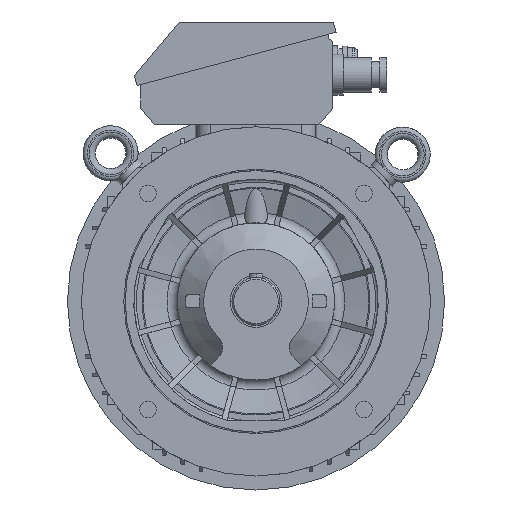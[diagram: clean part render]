
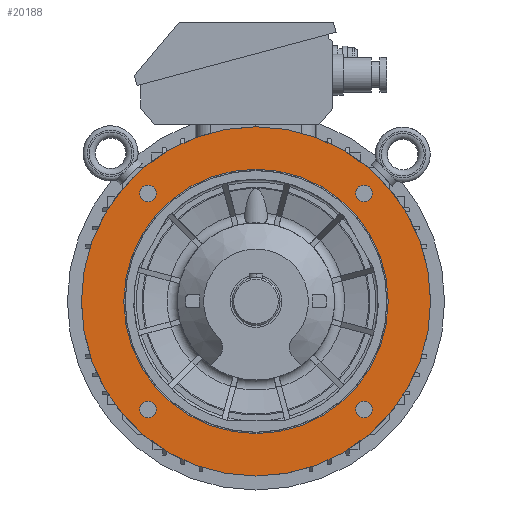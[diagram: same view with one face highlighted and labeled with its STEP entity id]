
A CAD part, front view. The second image highlights one B-rep face of the part: STEP entity #20188.
In plain terms, the highlighted planar face has unit normal (0, -1, 0).
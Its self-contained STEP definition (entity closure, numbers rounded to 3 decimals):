
#3221=PLANE('',#21217);
#4714=ORIENTED_EDGE('',*,*,#8899,.F.);
#4715=ORIENTED_EDGE('',*,*,#8900,.F.);
#4716=ORIENTED_EDGE('',*,*,#8901,.F.);
#4717=ORIENTED_EDGE('',*,*,#8902,.F.);
#4718=ORIENTED_EDGE('',*,*,#8898,.T.);
#4719=ORIENTED_EDGE('',*,*,#8903,.F.);
#8898=EDGE_CURVE('',#10941,#10941,#12165,.T.);
#8899=EDGE_CURVE('',#10942,#10942,#12166,.T.);
#8900=EDGE_CURVE('',#10943,#10943,#12167,.T.);
#8901=EDGE_CURVE('',#10944,#10944,#12168,.T.);
#8902=EDGE_CURVE('',#10945,#10945,#12169,.T.);
#8903=EDGE_CURVE('',#10946,#10946,#12170,.T.);
#10941=VERTEX_POINT('',#28460);
#10942=VERTEX_POINT('',#28463);
#10943=VERTEX_POINT('',#28465);
#10944=VERTEX_POINT('',#28467);
#10945=VERTEX_POINT('',#28469);
#10946=VERTEX_POINT('',#28471);
#12165=CIRCLE('',#21216,199.994);
#12166=CIRCLE('',#21218,9.5);
#12167=CIRCLE('',#21219,9.5);
#12168=CIRCLE('',#21220,9.5);
#12169=CIRCLE('',#21221,9.5);
#12170=CIRCLE('',#21222,151.394);
#12622=EDGE_LOOP('',(#4714));
#12623=EDGE_LOOP('',(#4715));
#12624=EDGE_LOOP('',(#4716));
#12625=EDGE_LOOP('',(#4717));
#12626=EDGE_LOOP('',(#4718));
#12627=EDGE_LOOP('',(#4719));
#13538=FACE_BOUND('',#12622,.T.);
#13539=FACE_BOUND('',#12623,.T.);
#13540=FACE_BOUND('',#12624,.T.);
#13541=FACE_BOUND('',#12625,.T.);
#13542=FACE_BOUND('',#12626,.T.);
#13543=FACE_BOUND('',#12627,.T.);
#20188=ADVANCED_FACE('',(#13538,#13539,#13540,#13541,#13542,#13543),#3221,
 .F.);
#21216=AXIS2_PLACEMENT_3D('',#28459,#23091,#23092);
#21217=AXIS2_PLACEMENT_3D('',#28461,#23093,#23094);
#21218=AXIS2_PLACEMENT_3D('',#28462,#23095,#23096);
#21219=AXIS2_PLACEMENT_3D('',#28464,#23097,#23098);
#21220=AXIS2_PLACEMENT_3D('',#28466,#23099,#23100);
#21221=AXIS2_PLACEMENT_3D('',#28468,#23101,#23102);
#21222=AXIS2_PLACEMENT_3D('',#28470,#23103,#23104);
#23091=DIRECTION('',(0.,-1.,0.));
#23092=DIRECTION('',(-1.,0.,0.));
#23093=DIRECTION('',(0.,1.,0.));
#23094=DIRECTION('',(1.,0.,0.));
#23095=DIRECTION('',(0.,-1.,0.));
#23096=DIRECTION('',(0.,0.,-1.));
#23097=DIRECTION('',(0.,-1.,0.));
#23098=DIRECTION('',(0.,0.,-1.));
#23099=DIRECTION('',(0.,-1.,0.));
#23100=DIRECTION('',(0.,0.,-1.));
#23101=DIRECTION('',(0.,-1.,0.));
#23102=DIRECTION('',(0.,0.,-1.));
#23103=DIRECTION('',(0.,-1.,0.));
#23104=DIRECTION('',(-1.,0.,0.));
#28459=CARTESIAN_POINT('',(0.,-72.494,0.));
#28460=CARTESIAN_POINT('',(-199.994,-72.494,0.));
#28461=CARTESIAN_POINT('',(199.994,-72.494,0.));
#28462=CARTESIAN_POINT('',(-123.744,-72.494,123.744));
#28463=CARTESIAN_POINT('',(-123.744,-72.494,114.244));
#28464=CARTESIAN_POINT('',(-123.744,-72.494,-123.744));
#28465=CARTESIAN_POINT('',(-123.744,-72.494,-133.244));
#28466=CARTESIAN_POINT('',(123.744,-72.494,-123.744));
#28467=CARTESIAN_POINT('',(123.744,-72.494,-133.244));
#28468=CARTESIAN_POINT('',(123.744,-72.494,123.744));
#28469=CARTESIAN_POINT('',(123.744,-72.494,114.244));
#28470=CARTESIAN_POINT('',(0.,-72.494,0.));
#28471=CARTESIAN_POINT('',(-151.394,-72.494,0.));
